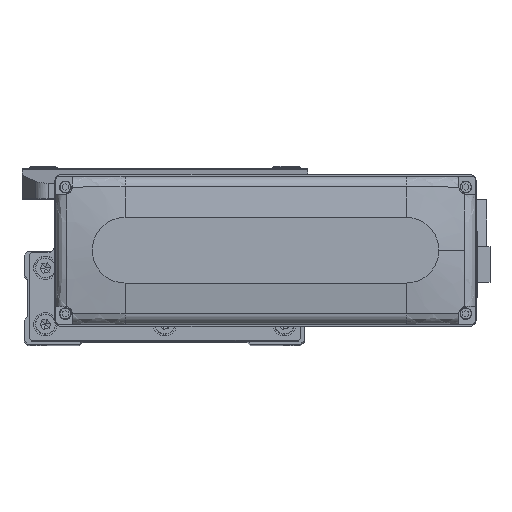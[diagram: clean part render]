
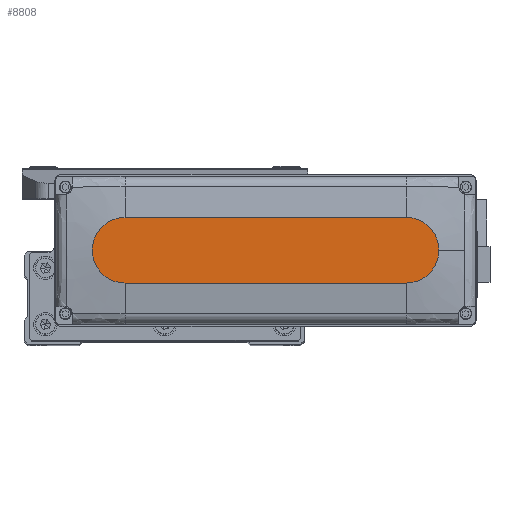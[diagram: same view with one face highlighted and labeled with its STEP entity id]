
A CAD part, top view. The second image highlights one B-rep face of the part: STEP entity #8808.
In plain terms, the highlighted planar face has unit normal (0, 0, 1).
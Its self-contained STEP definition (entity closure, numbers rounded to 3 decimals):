
#415 = DIRECTION ( 'NONE',  ( 1., 0., 0. ) ) ;
#964 = AXIS2_PLACEMENT_3D ( 'NONE', #36867, #7568, #20640 ) ;
#1232 = CARTESIAN_POINT ( 'NONE',  ( 0., 0., 28.5 ) ) ;
#1912 = VERTEX_POINT ( 'NONE', #12546 ) ;
#5109 = CARTESIAN_POINT ( 'NONE',  ( 60., 0., 28.5 ) ) ;
#5372 = EDGE_CURVE ( 'NONE', #39015, #14477, #40959, .T. ) ;
#5662 = AXIS2_PLACEMENT_3D ( 'NONE', #5109, #18166, #31209 ) ;
#5728 = CIRCLE ( 'NONE', #11176, 14. ) ;
#6288 = VECTOR ( 'NONE', #415, 1000. ) ;
#6514 = CARTESIAN_POINT ( 'NONE',  ( -60., -14., 28.5 ) ) ;
#7403 = AXIS2_PLACEMENT_3D ( 'NONE', #1232, #14294, #27331 ) ;
#7568 = DIRECTION ( 'NONE',  ( 0., 0., 1. ) ) ;
#7623 = ORIENTED_EDGE ( 'NONE', *, *, #24350, .T. ) ;
#8486 = CARTESIAN_POINT ( 'NONE',  ( -60., 0., 28.5 ) ) ;
#8808 = ADVANCED_FACE ( 'NONE', ( #17525 ), #30559, .T. ) ;
#11176 = AXIS2_PLACEMENT_3D ( 'NONE', #8486, #21539, #34580 ) ;
#11665 = CARTESIAN_POINT ( 'NONE',  ( -60., 14., 28.5 ) ) ;
#12094 = EDGE_CURVE ( 'NONE', #14477, #31588, #5728, .T. ) ;
#12546 = CARTESIAN_POINT ( 'NONE',  ( 60., -14., 28.5 ) ) ;
#13646 = CARTESIAN_POINT ( 'NONE',  ( -60., 14., 28.5 ) ) ;
#14294 = DIRECTION ( 'NONE',  ( 0., 0., 1. ) ) ;
#14477 = VERTEX_POINT ( 'NONE', #13646 ) ;
#16693 = LINE ( 'NONE', #29740, #6288 ) ;
#17007 = CARTESIAN_POINT ( 'NONE',  ( 74., 0., 28.5 ) ) ;
#17525 = FACE_OUTER_BOUND ( 'NONE', #34523, .T. ) ;
#17797 = ORIENTED_EDGE ( 'NONE', *, *, #5372, .T. ) ;
#18166 = DIRECTION ( 'NONE',  ( 0., 0., 1. ) ) ;
#18656 = EDGE_CURVE ( 'NONE', #1912, #25115, #19437, .T. ) ;
#19437 = CIRCLE ( 'NONE', #964, 14. ) ;
#20640 = DIRECTION ( 'NONE',  ( 1., 0., 0. ) ) ;
#21539 = DIRECTION ( 'NONE',  ( 0., 0., 1. ) ) ;
#23577 = ORIENTED_EDGE ( 'NONE', *, *, #12094, .T. ) ;
#24094 = CIRCLE ( 'NONE', #5662, 14. ) ;
#24350 = EDGE_CURVE ( 'NONE', #25115, #39015, #24094, .T. ) ;
#24710 = DIRECTION ( 'NONE',  ( -1., 0., 0. ) ) ;
#25115 = VERTEX_POINT ( 'NONE', #17007 ) ;
#27331 = DIRECTION ( 'NONE',  ( 1., 0., 0. ) ) ;
#29740 = CARTESIAN_POINT ( 'NONE',  ( -60., -14., 28.5 ) ) ;
#30235 = CARTESIAN_POINT ( 'NONE',  ( 60., 14., 28.5 ) ) ;
#30559 = PLANE ( 'NONE',  #7403 ) ;
#31169 = VECTOR ( 'NONE', #24710, 1000. ) ;
#31209 = DIRECTION ( 'NONE',  ( 1., 0., 0. ) ) ;
#31435 = ORIENTED_EDGE ( 'NONE', *, *, #34058, .T. ) ;
#31588 = VERTEX_POINT ( 'NONE', #6514 ) ;
#34058 = EDGE_CURVE ( 'NONE', #31588, #1912, #16693, .T. ) ;
#34523 = EDGE_LOOP ( 'NONE', ( #17797, #23577, #31435, #40934, #7623 ) ) ;
#34580 = DIRECTION ( 'NONE',  ( 1., 0., 0. ) ) ;
#36867 = CARTESIAN_POINT ( 'NONE',  ( 60., 0., 28.5 ) ) ;
#39015 = VERTEX_POINT ( 'NONE', #30235 ) ;
#40934 = ORIENTED_EDGE ( 'NONE', *, *, #18656, .T. ) ;
#40959 = LINE ( 'NONE', #11665, #31169 ) ;
